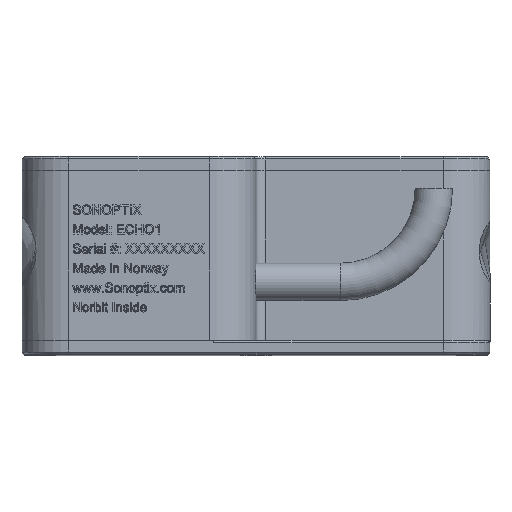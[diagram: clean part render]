
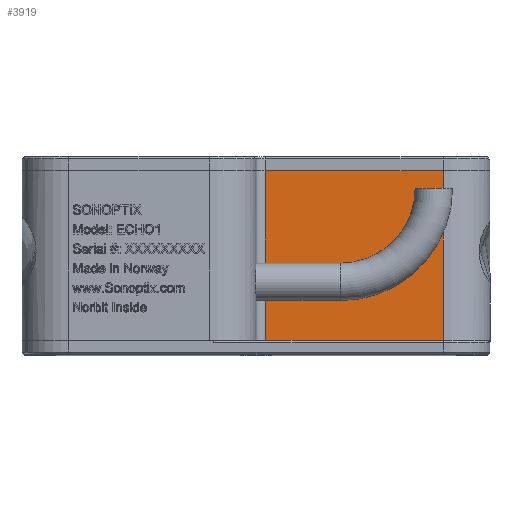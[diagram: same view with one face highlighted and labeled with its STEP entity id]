
A CAD part, top view. The second image highlights one B-rep face of the part: STEP entity #3919.
In plain terms, the highlighted planar face has unit normal (0, 0, 1).
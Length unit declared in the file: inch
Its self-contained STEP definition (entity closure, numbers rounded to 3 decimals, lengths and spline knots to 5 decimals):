
#1872 = CARTESIAN_POINT ( 'NONE',  ( 0.07874, 0., 1.15161 ) ) ;
#2193 = LINE ( 'NONE', #70208, #70598 ) ;
#3919 = ADVANCED_FACE ( 'NONE', ( #16645 ), #49809, .F. ) ;
#6559 = VERTEX_POINT ( 'NONE', #67761 ) ;
#7268 = LINE ( 'NONE', #41273, #15317 ) ;
#15317 = VECTOR ( 'NONE', #28161, 39.37008 ) ;
#16645 = FACE_OUTER_BOUND ( 'NONE', #52864, .T. ) ;
#23904 = EDGE_CURVE ( 'NONE', #68260, #43506, #7268, .T. ) ;
#28161 = DIRECTION ( 'NONE',  ( 0., 1., 0. ) ) ;
#28866 = ORIENTED_EDGE ( 'NONE', *, *, #46363, .F. ) ;
#30242 = ORIENTED_EDGE ( 'NONE', *, *, #79289, .F. ) ;
#32298 = CARTESIAN_POINT ( 'NONE',  ( 0., 1.42913, 1.15161 ) ) ;
#37008 = DIRECTION ( 'NONE',  ( 0., 1., 0. ) ) ;
#37094 = DIRECTION ( 'NONE',  ( 0., 0., -1. ) ) ;
#38347 = VECTOR ( 'NONE', #57233, 39.37008 ) ;
#38422 = AXIS2_PLACEMENT_3D ( 'NONE', #42851, #37094, #62014 ) ;
#41273 = CARTESIAN_POINT ( 'NONE',  ( 0.07874, -2.35569, 1.15161 ) ) ;
#42851 = CARTESIAN_POINT ( 'NONE',  ( 0., 0., 1.15161 ) ) ;
#43506 = VERTEX_POINT ( 'NONE', #74585 ) ;
#45999 = VECTOR ( 'NONE', #72857, 39.37008 ) ;
#46363 = EDGE_CURVE ( 'NONE', #43506, #6559, #73295, .T. ) ;
#49809 = PLANE ( 'NONE',  #38422 ) ;
#51824 = CARTESIAN_POINT ( 'NONE',  ( 1.5748, 0., 1.15161 ) ) ;
#52864 = EDGE_LOOP ( 'NONE', ( #62632, #30242, #54497, #28866 ) ) ;
#54497 = ORIENTED_EDGE ( 'NONE', *, *, #59983, .T. ) ;
#57233 = DIRECTION ( 'NONE',  ( -1., 0., 0. ) ) ;
#59983 = EDGE_CURVE ( 'NONE', #64045, #6559, #2193, .T. ) ;
#62014 = DIRECTION ( 'NONE',  ( -1., 0., 0. ) ) ;
#62632 = ORIENTED_EDGE ( 'NONE', *, *, #23904, .F. ) ;
#64045 = VERTEX_POINT ( 'NONE', #51824 ) ;
#67761 = CARTESIAN_POINT ( 'NONE',  ( 1.5748, 1.42913, 1.15161 ) ) ;
#68260 = VERTEX_POINT ( 'NONE', #1872 ) ;
#70208 = CARTESIAN_POINT ( 'NONE',  ( 1.5748, 0., 1.15161 ) ) ;
#70347 = LINE ( 'NONE', #72047, #38347 ) ;
#70598 = VECTOR ( 'NONE', #37008, 39.37008 ) ;
#72047 = CARTESIAN_POINT ( 'NONE',  ( 0., 0., 1.15161 ) ) ;
#72857 = DIRECTION ( 'NONE',  ( 1., 0., 0. ) ) ;
#73295 = LINE ( 'NONE', #32298, #45999 ) ;
#74585 = CARTESIAN_POINT ( 'NONE',  ( 0.07874, 1.42913, 1.15161 ) ) ;
#79289 = EDGE_CURVE ( 'NONE', #64045, #68260, #70347, .T. ) ;
